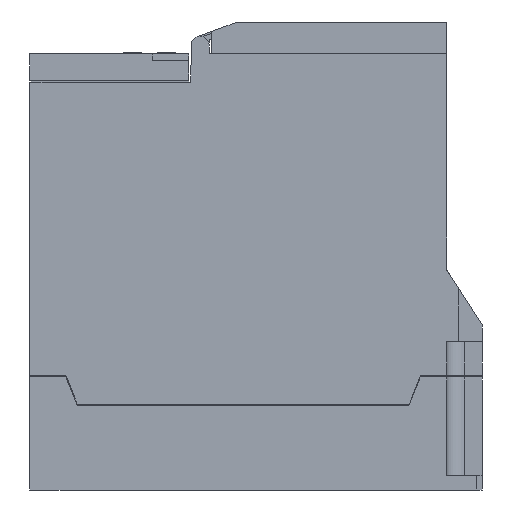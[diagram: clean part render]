
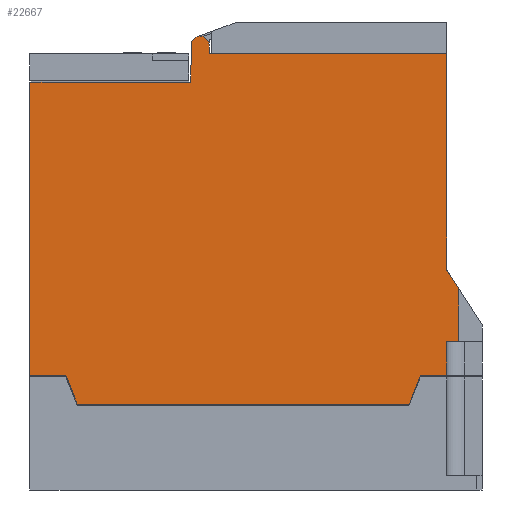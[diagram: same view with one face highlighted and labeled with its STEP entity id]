
A CAD part, left-side view. The second image highlights one B-rep face of the part: STEP entity #22667.
In plain terms, the highlighted planar face has unit normal (-1, 0, 0).
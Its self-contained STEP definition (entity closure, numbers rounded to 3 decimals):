
#1943=DIRECTION('',(0.,-0.362,0.932));
#1944=VECTOR('',#1943,8.796);
#1945=CARTESIAN_POINT('',(-34.,20.589,-7.7));
#1946=LINE('',#1945,#1944);
#2429=DIRECTION('',(0.,-0.362,-0.932));
#2430=VECTOR('',#2429,8.796);
#2431=CARTESIAN_POINT('',(-34.,117.794,0.5));
#2432=LINE('',#2431,#2430);
#2576=DIRECTION('',(0.,-1.,0.));
#2577=VECTOR('',#2576,45.516);
#2578=CARTESIAN_POINT('',(-34.,128.,83.5));
#2579=LINE('',#2578,#2577);
#6188=DIRECTION('',(0.,-1.,0.));
#6189=VECTOR('',#6188,3.4);
#6190=CARTESIAN_POINT('',(-34.,10.,10.));
#6191=LINE('',#6190,#6189);
#6224=DIRECTION('',(0.,0.,1.));
#6225=VECTOR('',#6224,9.5);
#6226=CARTESIAN_POINT('',(-34.,10.,0.5));
#6227=LINE('',#6226,#6225);
#6252=DIRECTION('',(0.,-1.,0.));
#6253=VECTOR('',#6252,67.256);
#6254=CARTESIAN_POINT('',(-34.,77.256,91.5));
#6255=LINE('',#6254,#6253);
#6368=DIRECTION('',(0.,-1.,0.));
#6369=VECTOR('',#6368,10.206);
#6370=CARTESIAN_POINT('',(-34.,128.,0.5));
#6371=LINE('',#6370,#6369);
#6372=DIRECTION('',(0.,0.,1.));
#6373=VECTOR('',#6372,83.);
#6374=CARTESIAN_POINT('',(-34.,128.,0.5));
#6375=LINE('',#6374,#6373);
#6376=DIRECTION('',(0.,-0.017,1.));
#6377=VECTOR('',#6376,10.545);
#6378=CARTESIAN_POINT('',(-34.,82.484,83.5));
#6379=LINE('',#6378,#6377);
#6380=CARTESIAN_POINT('',(-34.,79.8,94.));
#6381=DIRECTION('',(1.,0.,0.));
#6382=DIRECTION('',(0.,1.,0.017));
#6383=AXIS2_PLACEMENT_3D('',#6380,#6381,#6382);
#6385=DIRECTION('',(0.,-0.017,-1.));
#6386=VECTOR('',#6385,2.544);
#6387=CARTESIAN_POINT('',(-34.,77.3,94.044));
#6388=LINE('',#6387,#6386);
#6389=DIRECTION('',(0.,0.,-1.));
#6390=VECTOR('',#6389,61.224);
#6391=CARTESIAN_POINT('',(-34.,10.,91.5));
#6392=LINE('',#6391,#6390);
#6393=DIRECTION('',(0.,-0.541,-0.841));
#6394=VECTOR('',#6393,6.281);
#6395=CARTESIAN_POINT('',(-34.,10.,30.276));
#6396=LINE('',#6395,#6394);
#6397=DIRECTION('',(0.,1.,0.));
#6398=VECTOR('',#6397,7.406);
#6399=CARTESIAN_POINT('',(-34.,10.,0.5));
#6400=LINE('',#6399,#6398);
#6455=DIRECTION('',(0.,0.,-1.));
#6456=VECTOR('',#6455,14.994);
#6457=CARTESIAN_POINT('',(-34.,6.6,24.994));
#6458=LINE('',#6457,#6456);
#6503=DIRECTION('',(0.,-1.,0.));
#6504=VECTOR('',#6503,94.021);
#6505=CARTESIAN_POINT('',(-34.,114.611,-7.7));
#6506=LINE('',#6505,#6504);
#9247=CARTESIAN_POINT('',(-34.,114.611,-7.7));
#9248=CARTESIAN_POINT('',(-34.,20.589,-7.7));
#9249=VERTEX_POINT('',#9247);
#9250=VERTEX_POINT('',#9248);
#9329=CARTESIAN_POINT('',(-34.,128.,83.5));
#9330=VERTEX_POINT('',#9329);
#9333=CARTESIAN_POINT('',(-34.,10.,91.5));
#9335=VERTEX_POINT('',#9333);
#9341=CARTESIAN_POINT('',(-34.,82.3,94.044));
#9342=CARTESIAN_POINT('',(-34.,77.3,94.044));
#9343=VERTEX_POINT('',#9341);
#9344=VERTEX_POINT('',#9342);
#9349=CARTESIAN_POINT('',(-34.,77.256,91.5));
#9350=VERTEX_POINT('',#9349);
#9584=CARTESIAN_POINT('',(-34.,128.,0.5));
#9586=VERTEX_POINT('',#9584);
#9671=CARTESIAN_POINT('',(-34.,117.794,0.5));
#9673=VERTEX_POINT('',#9671);
#9676=CARTESIAN_POINT('',(-34.,17.406,0.5));
#9678=VERTEX_POINT('',#9676);
#9683=CARTESIAN_POINT('',(-34.,10.,0.5));
#9684=VERTEX_POINT('',#9683);
#9743=CARTESIAN_POINT('',(-34.,82.484,83.5));
#9744=VERTEX_POINT('',#9743);
#9863=CARTESIAN_POINT('',(-34.,6.6,10.));
#9865=VERTEX_POINT('',#9863);
#9871=CARTESIAN_POINT('',(-34.,10.,10.));
#9872=VERTEX_POINT('',#9871);
#9875=CARTESIAN_POINT('',(-34.,10.,30.276));
#9876=CARTESIAN_POINT('',(-34.,6.6,24.994));
#9877=VERTEX_POINT('',#9875);
#9878=VERTEX_POINT('',#9876);
#22639=CARTESIAN_POINT('',(-34.,128.,-7.7));
#22640=DIRECTION('',(-1.,0.,0.));
#22641=DIRECTION('',(0.,-1.,0.));
#22642=AXIS2_PLACEMENT_3D('',#22639,#22640,#22641);
#22643=PLANE('',#22642);
#22644=ORIENTED_EDGE('',*,*,#14852,.F.);
#22645=ORIENTED_EDGE('',*,*,#14949,.F.);
#22646=ORIENTED_EDGE('',*,*,#15133,.T.);
#22647=ORIENTED_EDGE('',*,*,#15156,.T.);
#22649=ORIENTED_EDGE('',*,*,#22648,.T.);
#22651=ORIENTED_EDGE('',*,*,#22650,.T.);
#22653=ORIENTED_EDGE('',*,*,#22652,.T.);
#22654=ORIENTED_EDGE('',*,*,#22391,.T.);
#22655=ORIENTED_EDGE('',*,*,#22318,.T.);
#22656=ORIENTED_EDGE('',*,*,#22187,.T.);
#22658=ORIENTED_EDGE('',*,*,#22657,.T.);
#22659=ORIENTED_EDGE('',*,*,#22278,.F.);
#22660=ORIENTED_EDGE('',*,*,#22364,.F.);
#22661=ORIENTED_EDGE('',*,*,#13726,.T.);
#22662=ORIENTED_EDGE('',*,*,#13826,.F.);
#22664=ORIENTED_EDGE('',*,*,#22663,.F.);
#22665=EDGE_LOOP('',(#22644,#22645,#22646,#22647,#22649,#22651,#22653,#22654,
#22655,#22656,#22658,#22659,#22660,#22661,#22662,#22664));
#22666=FACE_OUTER_BOUND('',#22665,.F.);
#22667=ADVANCED_FACE('',(#22666),#22643,.T.);
#6384=CIRCLE('',#6383,2.5);
#13726=EDGE_CURVE('',#9684,#9678,#6400,.T.);
#13826=EDGE_CURVE('',#9250,#9678,#1946,.T.);
#14852=EDGE_CURVE('',#9673,#9249,#2432,.T.);
#14949=EDGE_CURVE('',#9586,#9673,#6371,.T.);
#15133=EDGE_CURVE('',#9586,#9330,#6375,.T.);
#15156=EDGE_CURVE('',#9330,#9744,#2579,.T.);
#22187=EDGE_CURVE('',#9877,#9878,#6396,.T.);
#22278=EDGE_CURVE('',#9872,#9865,#6191,.T.);
#22318=EDGE_CURVE('',#9335,#9877,#6392,.T.);
#22364=EDGE_CURVE('',#9684,#9872,#6227,.T.);
#22391=EDGE_CURVE('',#9350,#9335,#6255,.T.);
#22648=EDGE_CURVE('',#9744,#9343,#6379,.T.);
#22650=EDGE_CURVE('',#9343,#9344,#6384,.T.);
#22652=EDGE_CURVE('',#9344,#9350,#6388,.T.);
#22657=EDGE_CURVE('',#9878,#9865,#6458,.T.);
#22663=EDGE_CURVE('',#9249,#9250,#6506,.T.);
